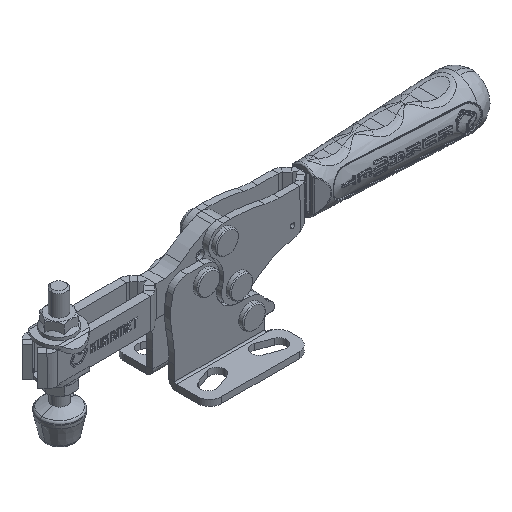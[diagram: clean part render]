
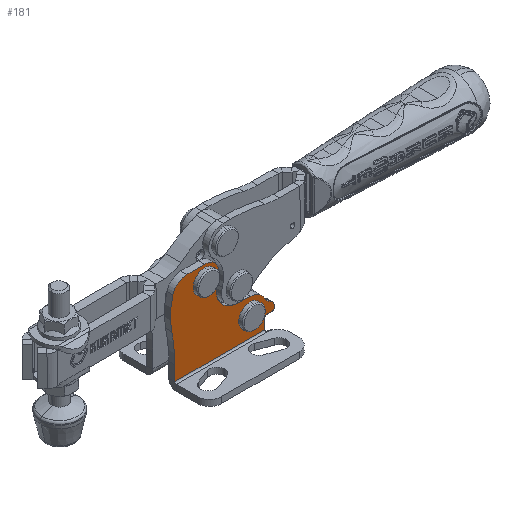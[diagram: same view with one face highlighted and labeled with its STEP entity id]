
A CAD part, isometric view. The second image highlights one B-rep face of the part: STEP entity #181.
In plain terms, the highlighted planar face has unit normal (0, -1, 0).
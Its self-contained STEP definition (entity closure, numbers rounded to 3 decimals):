
#181=ADVANCED_FACE('',(#1758,#1759,#1760),#1761,.F.);
#1758=FACE_OUTER_BOUND('',#4890,.T.);
#1759=FACE_BOUND('',#4891,.T.);
#1760=FACE_BOUND('',#4892,.T.);
#1761=PLANE('',#4893);
#4890=EDGE_LOOP('',(#17284,#17285,#17286,#17287,#17288,#17289,#17290,#17291,#17292,#17293,#17294,#17295,#17296,#17297,#17298,#17299,#17300,#17301,#17302,#17303,#17304));
#4891=EDGE_LOOP('',(#17305,#17306));
#4892=EDGE_LOOP('',(#17307,#17308));
#4893=AXIS2_PLACEMENT_3D('',#17309,#17310,#17311);
#17284=ORIENTED_EDGE('',*,*,#27899,.F.);
#17285=ORIENTED_EDGE('',*,*,#27900,.F.);
#17286=ORIENTED_EDGE('',*,*,#27901,.F.);
#17287=ORIENTED_EDGE('',*,*,#27902,.F.);
#17288=ORIENTED_EDGE('',*,*,#27903,.F.);
#17289=ORIENTED_EDGE('',*,*,#27904,.F.);
#17290=ORIENTED_EDGE('',*,*,#27894,.F.);
#17291=ORIENTED_EDGE('',*,*,#27905,.T.);
#17292=ORIENTED_EDGE('',*,*,#27906,.T.);
#17293=ORIENTED_EDGE('',*,*,#27898,.T.);
#17294=ORIENTED_EDGE('',*,*,#27907,.F.);
#17295=ORIENTED_EDGE('',*,*,#27908,.T.);
#17296=ORIENTED_EDGE('',*,*,#27909,.F.);
#17297=ORIENTED_EDGE('',*,*,#27910,.T.);
#17298=ORIENTED_EDGE('',*,*,#27911,.T.);
#17299=ORIENTED_EDGE('',*,*,#27912,.F.);
#17300=ORIENTED_EDGE('',*,*,#27913,.T.);
#17301=ORIENTED_EDGE('',*,*,#27914,.T.);
#17302=ORIENTED_EDGE('',*,*,#27915,.T.);
#17303=ORIENTED_EDGE('',*,*,#27916,.T.);
#17304=ORIENTED_EDGE('',*,*,#27917,.F.);
#17305=ORIENTED_EDGE('',*,*,#27918,.F.);
#17306=ORIENTED_EDGE('',*,*,#27871,.F.);
#17307=ORIENTED_EDGE('',*,*,#27919,.F.);
#17308=ORIENTED_EDGE('',*,*,#27856,.F.);
#17309=CARTESIAN_POINT('',(4.121,-4.575,10.892));
#17310=DIRECTION('',(-0.0,1.0,0.0));
#17311=DIRECTION('',(1.0,0.0,0.0));
#27856=EDGE_CURVE('',#31788,#31784,#31790,.T.);
#27871=EDGE_CURVE('',#31817,#31813,#31819,.T.);
#27894=EDGE_CURVE('',#31862,#31858,#31864,.T.);
#27898=EDGE_CURVE('',#31866,#31870,#31872,.T.);
#27899=EDGE_CURVE('',#31873,#31874,#31875,.T.);
#27900=EDGE_CURVE('',#31876,#31873,#31877,.T.);
#27901=EDGE_CURVE('',#31878,#31876,#31879,.T.);
#27902=EDGE_CURVE('',#31880,#31878,#31881,.T.);
#27903=EDGE_CURVE('',#31882,#31880,#31883,.T.);
#27904=EDGE_CURVE('',#31858,#31882,#31884,.T.);
#27905=EDGE_CURVE('',#31862,#31885,#31886,.T.);
#27906=EDGE_CURVE('',#31885,#31866,#31887,.T.);
#27907=EDGE_CURVE('',#31888,#31870,#31889,.T.);
#27908=EDGE_CURVE('',#31888,#31890,#31891,.T.);
#27909=EDGE_CURVE('',#31892,#31890,#31893,.T.);
#27910=EDGE_CURVE('',#31892,#31894,#31895,.T.);
#27911=EDGE_CURVE('',#31894,#31896,#31897,.T.);
#27912=EDGE_CURVE('',#31898,#31896,#31899,.T.);
#27913=EDGE_CURVE('',#31898,#31900,#31901,.T.);
#27914=EDGE_CURVE('',#31900,#31902,#31903,.T.);
#27915=EDGE_CURVE('',#31902,#31904,#31905,.T.);
#27916=EDGE_CURVE('',#31904,#31906,#31907,.T.);
#27917=EDGE_CURVE('',#31874,#31906,#31908,.T.);
#27918=EDGE_CURVE('',#31813,#31817,#31909,.T.);
#27919=EDGE_CURVE('',#31784,#31788,#31910,.T.);
#31784=VERTEX_POINT('',#37784);
#31788=VERTEX_POINT('',#37789);
#31790=CIRCLE('',#37792,3.75);
#31813=VERTEX_POINT('',#37821);
#31817=VERTEX_POINT('',#37826);
#31819=CIRCLE('',#37829,3.75);
#31858=VERTEX_POINT('',#37878);
#31862=VERTEX_POINT('',#37883);
#31864=CIRCLE('',#37886,0.8);
#31866=VERTEX_POINT('',#37888);
#31870=VERTEX_POINT('',#37893);
#31872=CIRCLE('',#37896,0.7);
#31873=VERTEX_POINT('',#37897);
#31874=VERTEX_POINT('',#37898);
#31875=LINE('',#37899,#37900);
#31876=VERTEX_POINT('',#37901);
#31877=LINE('',#37902,#37903);
#31878=VERTEX_POINT('',#37904);
#31879=LINE('',#37905,#37906);
#31880=VERTEX_POINT('',#37907);
#31881=CIRCLE('',#37908,4.0);
#31882=VERTEX_POINT('',#37909);
#31883=LINE('',#37910,#37911);
#31884=CIRCLE('',#37912,0.8);
#31885=VERTEX_POINT('',#37913);
#31886=LINE('',#37914,#37915);
#31887=CIRCLE('',#37916,0.7);
#31888=VERTEX_POINT('',#37917);
#31889=LINE('',#37918,#37919);
#31890=VERTEX_POINT('',#37920);
#31891=CIRCLE('',#37921,2.25);
#31892=VERTEX_POINT('',#37922);
#31893=CIRCLE('',#37923,4.);
#31894=VERTEX_POINT('',#37924);
#31895=CIRCLE('',#37925,5.25);
#31896=VERTEX_POINT('',#37926);
#31897=LINE('',#37927,#37928);
#31898=VERTEX_POINT('',#37929);
#31899=CIRCLE('',#37930,7.0);
#31900=VERTEX_POINT('',#37931);
#31901=CIRCLE('',#37932,4.75);
#31902=VERTEX_POINT('',#37933);
#31903=LINE('',#37934,#37935);
#31904=VERTEX_POINT('',#37936);
#31905=CIRCLE('',#37937,4.75);
#31906=VERTEX_POINT('',#37938);
#31907=CIRCLE('',#37939,22.0);
#31908=CIRCLE('',#37940,50.0);
#31909=CIRCLE('',#37941,3.75);
#31910=CIRCLE('',#37942,3.75);
#37784=CARTESIAN_POINT('',(-6.936,-4.575,30.));
#37789=CARTESIAN_POINT('',(-6.936,-4.575,22.5));
#37792=AXIS2_PLACEMENT_3D('',#55820,#55821,#55822);
#37821=CARTESIAN_POINT('',(7.974,-4.575,12.83));
#37826=CARTESIAN_POINT('',(7.974,-4.575,5.33));
#37829=AXIS2_PLACEMENT_3D('',#55849,#55850,#55851);
#37878=CARTESIAN_POINT('',(13.55,-4.575,6.602));
#37883=CARTESIAN_POINT('',(13.564,-4.575,6.602));
#37886=AXIS2_PLACEMENT_3D('',#55894,#55895,#55896);
#37888=CARTESIAN_POINT('',(15.3,-4.575,6.572));
#37893=CARTESIAN_POINT('',(16.,-4.575,7.272));
#37896=AXIS2_PLACEMENT_3D('',#55902,#55903,#55904);
#37897=CARTESIAN_POINT('',(-16.75,-4.575,2.5));
#37898=CARTESIAN_POINT('',(-16.75,-4.575,7.336));
#37899=CARTESIAN_POINT('',(-16.75,-4.575,10.892));
#37900=VECTOR('',#55905,1.0);
#37901=CARTESIAN_POINT('',(12.786,-4.575,2.5));
#37902=CARTESIAN_POINT('',(4.121,-4.575,2.5));
#37903=VECTOR('',#55906,1.0);
#37904=CARTESIAN_POINT('',(12.786,-4.575,3.425));
#37905=CARTESIAN_POINT('',(12.786,-4.575,10.892));
#37906=VECTOR('',#55907,1.0);
#37907=CARTESIAN_POINT('',(12.75,-4.575,3.961));
#37908=AXIS2_PLACEMENT_3D('',#55908,#55909,#55910);
#37909=CARTESIAN_POINT('',(12.75,-4.575,5.802));
#37910=CARTESIAN_POINT('',(12.75,-4.575,10.892));
#37911=VECTOR('',#55911,1.0);
#37912=AXIS2_PLACEMENT_3D('',#55912,#55913,#55914);
#37913=CARTESIAN_POINT('',(15.288,-4.575,6.572));
#37914=CARTESIAN_POINT('',(13.564,-4.575,6.602));
#37915=VECTOR('',#55915,1.0);
#37916=AXIS2_PLACEMENT_3D('',#55916,#55917,#55918);
#37917=CARTESIAN_POINT('',(16.,-4.575,7.536));
#37918=CARTESIAN_POINT('',(16.,-4.575,10.892));
#37919=VECTOR('',#55919,1.0);
#37920=CARTESIAN_POINT('',(14.638,-4.575,9.604));
#37921=AXIS2_PLACEMENT_3D('',#55920,#55921,#55922);
#37922=CARTESIAN_POINT('',(12.652,-4.575,11.464));
#37923=AXIS2_PLACEMENT_3D('',#55923,#55924,#55925);
#37924=CARTESIAN_POINT('',(8.232,-4.575,14.324));
#37925=AXIS2_PLACEMENT_3D('',#55926,#55927,#55928);
#37926=CARTESIAN_POINT('',(3.488,-4.575,14.558));
#37927=CARTESIAN_POINT('',(8.232,-4.575,14.324));
#37928=VECTOR('',#55929,1.0);
#37929=CARTESIAN_POINT('',(-2.582,-4.575,24.35));
#37930=AXIS2_PLACEMENT_3D('',#55930,#55931,#55932);
#37931=CARTESIAN_POINT('',(-6.936,-4.575,31.));
#37932=AXIS2_PLACEMENT_3D('',#55933,#55934,#55935);
#37933=CARTESIAN_POINT('',(-12.764,-4.575,31.));
#37934=CARTESIAN_POINT('',(4.121,-4.575,31.));
#37935=VECTOR('',#55936,1.0);
#37936=CARTESIAN_POINT('',(-17.334,-4.575,27.544));
#37937=AXIS2_PLACEMENT_3D('',#55937,#55938,#55939);
#37938=CARTESIAN_POINT('',(-17.734,-4.575,17.207));
#37939=AXIS2_PLACEMENT_3D('',#55940,#55941,#55942);
#37940=AXIS2_PLACEMENT_3D('',#55943,#55944,#55945);
#37941=AXIS2_PLACEMENT_3D('',#55946,#55947,#55948);
#37942=AXIS2_PLACEMENT_3D('',#55949,#55950,#55951);
#55820=CARTESIAN_POINT('',(-6.936,-4.575,26.25));
#55821=DIRECTION('',(0.0,-1.0,0.0));
#55822=DIRECTION('',(0.0,0.0,1.0));
#55849=CARTESIAN_POINT('',(7.974,-4.575,9.08));
#55850=DIRECTION('',(0.0,-1.0,0.0));
#55851=DIRECTION('',(0.0,0.0,1.0));
#55894=CARTESIAN_POINT('',(13.55,-4.575,5.802));
#55895=DIRECTION('',(0.0,-1.0,0.0));
#55896=DIRECTION('',(0.0,0.0,-1.0));
#55902=CARTESIAN_POINT('',(15.3,-4.575,7.272));
#55903=DIRECTION('',(0.0,-1.0,0.0));
#55904=DIRECTION('',(0.0,0.0,-1.0));
#55905=DIRECTION('',(0.0,0.0,1.0));
#55906=DIRECTION('',(-1.0,0.0,0.0));
#55907=DIRECTION('',(0.0,0.0,-1.0));
#55908=CARTESIAN_POINT('',(16.75,-4.575,3.961));
#55909=DIRECTION('',(0.0,-1.0,0.0));
#55910=DIRECTION('',(0.0,0.0,-1.0));
#55911=DIRECTION('',(0.0,0.0,-1.0));
#55912=CARTESIAN_POINT('',(13.55,-4.575,5.802));
#55913=DIRECTION('',(0.0,-1.0,0.0));
#55914=DIRECTION('',(0.0,0.0,-1.0));
#55915=DIRECTION('',(1.,0.0,-0.017));
#55916=CARTESIAN_POINT('',(15.3,-4.575,7.272));
#55917=DIRECTION('',(0.0,-1.0,0.0));
#55918=DIRECTION('',(0.0,0.0,-1.0));
#55919=DIRECTION('',(0.0,0.0,-1.0));
#55920=CARTESIAN_POINT('',(13.75,-4.575,7.536));
#55921=DIRECTION('',(0.0,-1.0,0.0));
#55922=DIRECTION('',(0.0,0.0,-1.0));
#55923=CARTESIAN_POINT('',(16.216,-4.575,13.28));
#55924=DIRECTION('',(0.0,-1.0,0.0));
#55925=DIRECTION('',(0.0,0.0,-1.0));
#55926=CARTESIAN_POINT('',(7.974,-4.575,9.08));
#55927=DIRECTION('',(0.0,-1.0,0.0));
#55928=DIRECTION('',(0.0,0.0,-1.0));
#55929=DIRECTION('',(-0.999,0.0,0.049));
#55930=CARTESIAN_POINT('',(3.833,-4.575,21.55));
#55931=DIRECTION('',(0.0,-1.0,0.0));
#55932=DIRECTION('',(0.0,0.0,-1.0));
#55933=CARTESIAN_POINT('',(-6.936,-4.575,26.25));
#55934=DIRECTION('',(0.0,-1.0,0.0));
#55935=DIRECTION('',(0.0,0.0,-1.0));
#55936=DIRECTION('',(-1.0,0.0,0.0));
#55937=CARTESIAN_POINT('',(-12.764,-4.575,26.25));
#55938=DIRECTION('',(0.0,-1.0,0.0));
#55939=DIRECTION('',(0.0,0.0,-1.0));
#55940=CARTESIAN_POINT('',(3.833,-4.575,21.55));
#55941=DIRECTION('',(0.0,-1.0,0.0));
#55942=DIRECTION('',(0.0,0.0,-1.0));
#55943=CARTESIAN_POINT('',(-66.75,-4.575,7.336));
#55944=DIRECTION('',(0.0,-1.0,0.0));
#55945=DIRECTION('',(0.0,0.0,-1.0));
#55946=CARTESIAN_POINT('',(7.974,-4.575,9.08));
#55947=DIRECTION('',(0.0,-1.0,0.0));
#55948=DIRECTION('',(0.0,0.0,1.0));
#55949=CARTESIAN_POINT('',(-6.936,-4.575,26.25));
#55950=DIRECTION('',(0.0,-1.0,0.0));
#55951=DIRECTION('',(0.0,0.0,1.0));
